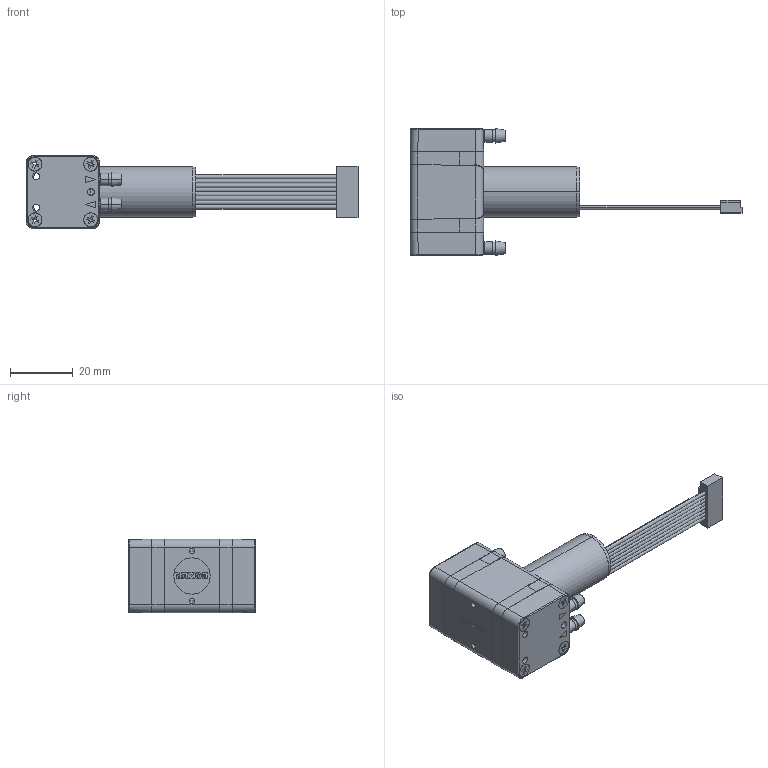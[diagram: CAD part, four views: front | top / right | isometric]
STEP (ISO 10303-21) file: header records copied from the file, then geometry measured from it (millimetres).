
FILE_DESCRIPTION (( 'STEP AP203' ), '1' );
FILE_NAME ('22KD BLDC.STEP', '2016-10-09T10:52:38', ( '' ), ( '' ), 'SwSTEP 2.0', 'SolidWorks 2014', '' );
FILE_SCHEMA (( 'CONFIG_CONTROL_DESIGN' ));
Length unit declared in the file: millimetre
Products named in the file (1): 22KD BLDC
Bounding box: 106.05 x 40.5 x 23.5 mm (x, y, z)
Surface area: 11227.8 mm2 (no closed solid volume)
Topology: 0 solids, 14 shells, 443 faces, 1454 edges, 1032 vertices
Faces by surface type: plane 227, cylinder 120, cone 56, bspline 40
Entity records: 17770 total; most frequent: CARTESIAN_POINT 5466, DIRECTION 2412, ORIENTED_EDGE 2388, EDGE_CURVE 1454, VERTEX_POINT 1032, AXIS2_PLACEMENT_3D 804, LINE 804, VECTOR 804
